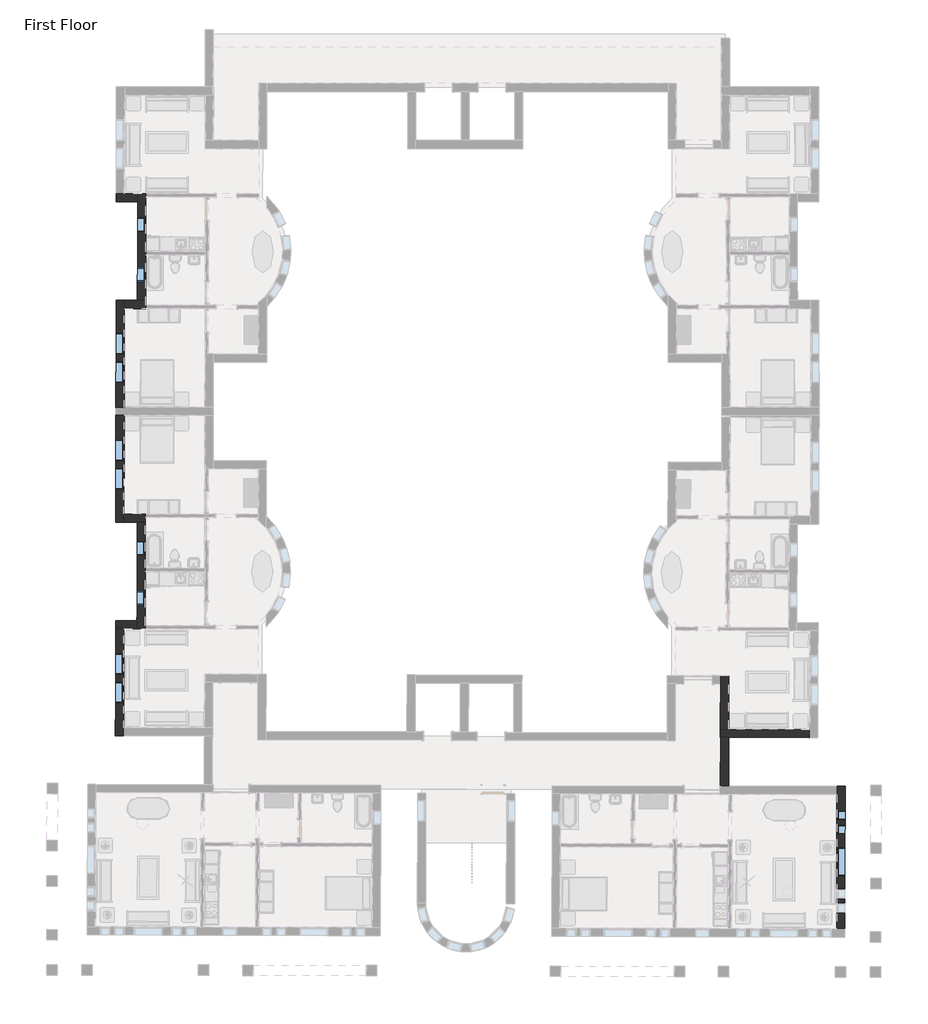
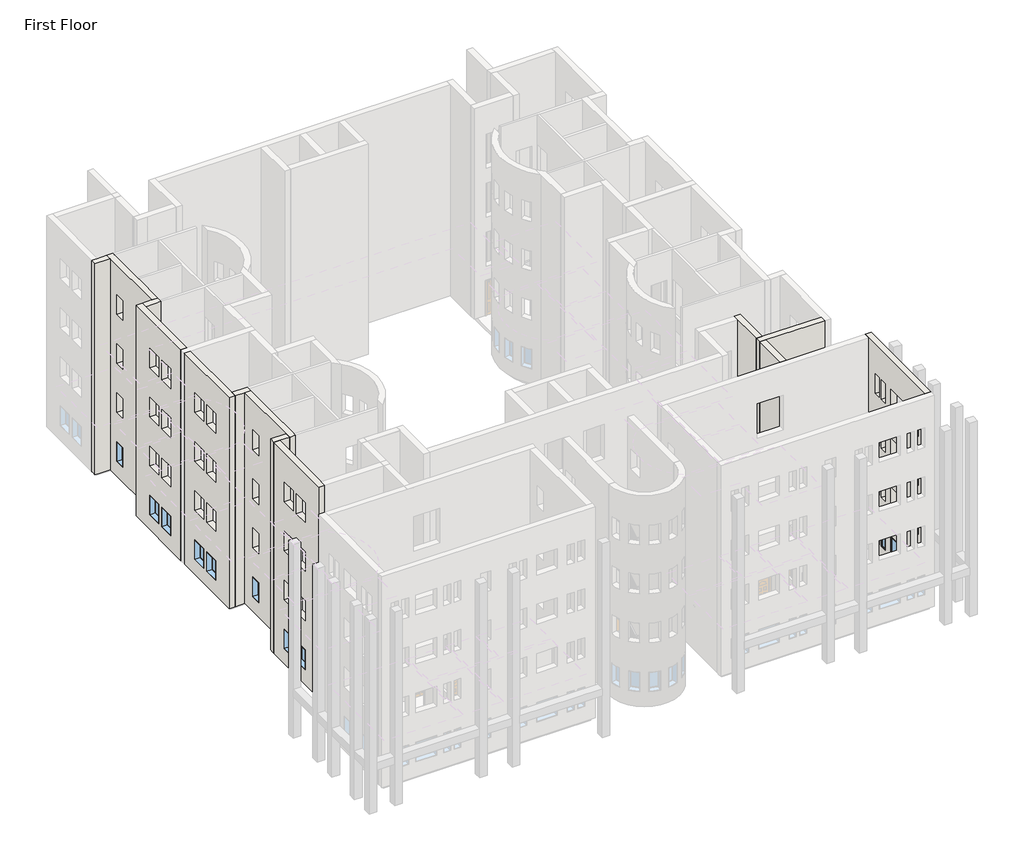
# One storey, part 5 of 23: 13 walls, 13 windows.
"""IFC4 building model written with IfcOpenShell, lengths in millimetres."""

from ifc_helpers import new_model, si_unit, origin, place, context, project, spatial, faceted_brep, transform, mapped, element, save
from components import m_fixed_0406_x_1220mm_57fee329, m_fixed_0610_x_1220mm_2c28ef1d, m_fixed_0610_x_1220mm_1ea27827, m_fixed_0915_x_1220mm_bde29121, m_fixed_0915_x_1220mm_2a2509e7, m_fixed_1220_x_1220mm_8f5f8ad3

model = new_model("IFC4")

# Units and contexts
model_context = context("Model", 3, world=origin())
ifc_project = project(units=[si_unit("LENGTHUNIT", "METRE", prefix="MILLI")], contexts=[model_context])

# Site, building, storey
site = spatial("IfcSite", under=ifc_project)
building = spatial("IfcBuilding", under=site)
storey = spatial("IfcBuildingStorey", under=building, Name="First Floor", Elevation=0.0)

# Walls
placement = place(None, origin())
element("IfcWall", 1, ObjectType="Exterior - Brick on Mtl. Stud", at=placement, inside=storey, context=model_context, shape_type="Brep", body=[
    faceted_brep([(-33657.6317367, -19488.7544857, 0.0), (-33651.5206937, -15266.7589083, 0.0), (-33651.0140937, -14916.759275, 0.0), (-33651.0140937, -14916.759275, 13107.0), (-33651.5206937, -15266.7589083, 13107.0), (-33657.6317367, -19488.7544857, 13107.0), (-33654.7963691, -17529.8565377, 915.0), (-33656.1207661, -18444.8555792, 915.0), (-33656.1207661, -18444.8555792, 2135.0), (-33654.7963691, -17529.8565377, 2135.0), (-33653.0316643, -16310.6578148, 915.0), (-33654.3560613, -17225.6568563, 915.0), (-33654.3560613, -17225.6568563, 2135.0), (-33653.0316643, -16310.6578148, 2135.0), (-33653.0316643, -16310.6578148, 10059.0), (-33654.3560613, -17225.6568563, 10059.0), (-33654.3560613, -17225.6568563, 11279.0), (-33653.0316643, -16310.6578148, 11279.0), (-33654.7963691, -17529.8565377, 10059.0), (-33656.1207661, -18444.8555792, 10059.0), (-33656.1207661, -18444.8555792, 11279.0), (-33654.7963691, -17529.8565377, 11279.0), (-33653.0316643, -16310.6578148, 3963.0), (-33654.3560613, -17225.6568563, 3963.0), (-33654.3560613, -17225.6568563, 5183.0), (-33653.0316643, -16310.6578148, 5183.0), (-33654.7963691, -17529.8565377, 3963.0), (-33656.1207661, -18444.8555792, 3963.0), (-33656.1207661, -18444.8555792, 5183.0), (-33654.7963691, -17529.8565377, 5183.0), (-33653.0316643, -16310.6578148, 7011.0), (-33654.3560613, -17225.6568563, 7011.0), (-33654.3560613, -17225.6568563, 8231.0), (-33653.0316643, -16310.6578148, 8231.0), (-33654.7963691, -17529.8565377, 7011.0), (-33656.1207661, -18444.8555792, 7011.0), (-33656.1207661, -18444.8555792, 8231.0), (-33654.7963691, -17529.8565377, 8231.0), (-34007.6313701, -19488.2478857, 0.0), (-34007.6313701, -19488.2478857, 13107.0), (-34001.0137271, -14916.252675, 13107.0), (-34001.0137271, -14916.252675, 0.0), (-34004.7960024, -17529.3499377, 915.0), (-34004.7960024, -17529.3499377, 2135.0), (-34006.1203995, -18444.3489792, 2135.0), (-34006.1203995, -18444.3489792, 915.0), (-34003.0312976, -16310.1512149, 915.0), (-34003.0312976, -16310.1512149, 2135.0), (-34004.3556947, -17225.1502564, 2135.0), (-34004.3556947, -17225.1502564, 915.0), (-34003.0312976, -16310.1512149, 10059.0), (-34003.0312976, -16310.1512149, 11279.0), (-34004.3556947, -17225.1502564, 11279.0), (-34004.3556947, -17225.1502564, 10059.0), (-34004.7960024, -17529.3499377, 10059.0), (-34004.7960024, -17529.3499377, 11279.0), (-34006.1203995, -18444.3489792, 11279.0), (-34006.1203995, -18444.3489792, 10059.0), (-34003.0312976, -16310.1512149, 3963.0), (-34003.0312976, -16310.1512149, 5183.0), (-34004.3556947, -17225.1502564, 5183.0), (-34004.3556947, -17225.1502564, 3963.0), (-34004.7960024, -17529.3499377, 3963.0), (-34004.7960024, -17529.3499377, 5183.0), (-34006.1203995, -18444.3489792, 5183.0), (-34006.1203995, -18444.3489792, 3963.0), (-34003.0312976, -16310.1512149, 7011.0), (-34003.0312976, -16310.1512149, 8231.0), (-34004.3556947, -17225.1502564, 8231.0), (-34004.3556947, -17225.1502564, 7011.0), (-34004.7960024, -17529.3499377, 7011.0), (-34004.7960024, -17529.3499377, 8231.0), (-34006.1203995, -18444.3489792, 8231.0), (-34006.1203995, -18444.3489792, 7011.0)], [[[0, 1, 2, 3, 4, 5], [6, 7, 8, 9], [10, 11, 12, 13], [14, 15, 16, 17], [18, 19, 20, 21], [22, 23, 24, 25], [26, 27, 28, 29], [30, 31, 32, 33], [34, 35, 36, 37]], [[38, 39, 40, 41], [42, 43, 44, 45], [46, 47, 48, 49], [50, 51, 52, 53], [54, 55, 56, 57], [58, 59, 60, 61], [62, 63, 64, 65], [66, 67, 68, 69], [70, 71, 72, 73]], [[2, 1, 0, 38, 41]], [[5, 4, 3, 40, 39]], [[0, 5, 39, 38]], [[3, 2, 41, 40]], [[43, 42, 6, 9]], [[44, 43, 9, 8]], [[45, 44, 8, 7]], [[42, 45, 7, 6]], [[47, 46, 10, 13]], [[48, 47, 13, 12]], [[49, 48, 12, 11]], [[46, 49, 11, 10]], [[51, 50, 14, 17]], [[52, 51, 17, 16]], [[53, 52, 16, 15]], [[50, 53, 15, 14]], [[55, 54, 18, 21]], [[56, 55, 21, 20]], [[57, 56, 20, 19]], [[54, 57, 19, 18]], [[59, 58, 22, 25]], [[60, 59, 25, 24]], [[61, 60, 24, 23]], [[58, 61, 23, 22]], [[63, 62, 26, 29]], [[64, 63, 29, 28]], [[65, 64, 28, 27]], [[62, 65, 27, 26]], [[67, 66, 30, 33]], [[68, 67, 33, 32]], [[69, 68, 32, 31]], [[66, 69, 31, 30]], [[71, 70, 34, 37]], [[72, 71, 37, 36]], [[73, 72, 36, 35]], [[70, 73, 35, 34]]]),
])
element("IfcWall", 2, ObjectType="Exterior - Brick on Mtl. Stud", at=placement, inside=storey, context=model_context, shape_type="Brep", body=[
    faceted_brep([(-33651.5206937, -15266.7589083, 0.0), (-32737.1216515, -15268.0824369, 0.0), (-32737.1216515, -15268.0824369, 13107.0), (-33651.5206937, -15266.7589083, 13107.0), (-33651.0140937, -14916.759275, 0.0), (-33651.0140937, -14916.759275, 13107.0), (-33086.6146849, -14917.5762036, 13107.0), (-32736.6150516, -14918.0828036, 13107.0), (-32736.6150516, -14918.0828036, 0.0), (-33086.6146849, -14917.5762036, 0.0), (-32736.9150311, -15125.3325865, 0.0), (-32737.1111577, -15260.8324445, 0.0), (-32737.1111577, -15260.8324445, 13107.0), (-32736.9150311, -15125.3325865, 13107.0)], [[[0, 1, 2, 3]], [[4, 5, 6, 7, 8, 9]], [[1, 0, 4, 9, 8, 10, 11]], [[3, 2, 12, 13, 7, 6, 5]], [[0, 3, 5, 4]], [[2, 1, 11, 10, 8, 7, 13, 12]]]),
])
element("IfcWall", 3, ObjectType="Exterior - Brick on Mtl. Stud", at=placement, inside=storey, context=model_context, shape_type="Brep", body=[
    faceted_brep([(-32736.6150516, -14918.0828036, 0.0), (-32733.7801182, -12959.4848553, 0.0), (-32733.5839916, -12823.9849972, 0.0), (-32730.204029, -10488.8374433, 0.0), (-32730.0079025, -10353.3375853, 0.0), (-32729.9974086, -10346.0875929, 0.0), (-32729.9974086, -10346.0875929, 13107.0), (-32730.0079025, -10353.3375853, 13107.0), (-32730.204029, -10488.8374433, 13107.0), (-32733.5839916, -12823.9849972, 13107.0), (-32733.7801182, -12959.4848553, 13107.0), (-32736.6150516, -14918.0828036, 13107.0), (-32734.5641178, -13501.1342879, 915.0), (-32735.4470492, -14111.1336489, 915.0), (-32735.4470492, -14111.1336489, 2135.0), (-32734.5641178, -13501.1342879, 2135.0), (-32731.4758844, -11367.5365229, 915.0), (-32732.3588158, -11977.5358839, 915.0), (-32732.3588158, -11977.5358839, 2135.0), (-32731.4758844, -11367.5365229, 2135.0), (-32731.4758844, -11367.5365229, 10059.0), (-32732.3588158, -11977.5358839, 10059.0), (-32732.3588158, -11977.5358839, 11279.0), (-32731.4758844, -11367.5365229, 11279.0), (-32734.5641178, -13501.1342879, 10059.0), (-32735.4470492, -14111.1336489, 10059.0), (-32735.4470492, -14111.1336489, 11279.0), (-32734.5641178, -13501.1342879, 11279.0), (-32731.4758844, -11367.5365229, 3963.0), (-32732.3588158, -11977.5358839, 3963.0), (-32732.3588158, -11977.5358839, 5183.0), (-32731.4758844, -11367.5365229, 5183.0), (-32734.5641178, -13501.1342879, 3963.0), (-32735.4470492, -14111.1336489, 3963.0), (-32735.4470492, -14111.1336489, 5183.0), (-32734.5641178, -13501.1342879, 5183.0), (-32731.4758844, -11367.5365229, 7011.0), (-32732.3588158, -11977.5358839, 7011.0), (-32732.3588158, -11977.5358839, 8231.0), (-32731.4758844, -11367.5365229, 8231.0), (-32734.5641178, -13501.1342879, 7011.0), (-32735.4470492, -14111.1336489, 7011.0), (-32735.4470492, -14111.1336489, 8231.0), (-32734.5641178, -13501.1342879, 8231.0), (-33086.6146849, -14917.5762036, 0.0), (-33086.6146849, -14917.5762036, 13107.0), (-33080.5036419, -10695.5806263, 13107.0), (-33079.997042, -10345.5809929, 13107.0), (-33079.997042, -10345.5809929, 0.0), (-33080.5036419, -10695.5806263, 0.0), (-33084.5637512, -13500.6276879, 915.0), (-33084.5637512, -13500.6276879, 2135.0), (-33085.4466825, -14110.6270489, 2135.0), (-33085.4466825, -14110.6270489, 915.0), (-33081.4755178, -11367.0299229, 915.0), (-33081.4755178, -11367.0299229, 2135.0), (-33082.3584491, -11977.0292839, 2135.0), (-33082.3584491, -11977.0292839, 915.0), (-33081.4755178, -11367.0299229, 10059.0), (-33081.4755178, -11367.0299229, 11279.0), (-33082.3584491, -11977.0292839, 11279.0), (-33082.3584491, -11977.0292839, 10059.0), (-33084.5637512, -13500.6276879, 10059.0), (-33084.5637512, -13500.6276879, 11279.0), (-33085.4466825, -14110.6270489, 11279.0), (-33085.4466825, -14110.6270489, 10059.0), (-33081.4755178, -11367.0299229, 3963.0), (-33081.4755178, -11367.0299229, 5183.0), (-33082.3584491, -11977.0292839, 5183.0), (-33082.3584491, -11977.0292839, 3963.0), (-33084.5637512, -13500.6276879, 3963.0), (-33084.5637512, -13500.6276879, 5183.0), (-33085.4466825, -14110.6270489, 5183.0), (-33085.4466825, -14110.6270489, 3963.0), (-33081.4755178, -11367.0299229, 7011.0), (-33081.4755178, -11367.0299229, 8231.0), (-33082.3584491, -11977.0292839, 8231.0), (-33082.3584491, -11977.0292839, 7011.0), (-33084.5637512, -13500.6276879, 7011.0), (-33084.5637512, -13500.6276879, 8231.0), (-33085.4466825, -14110.6270489, 8231.0), (-33085.4466825, -14110.6270489, 7011.0)], [[[0, 1, 2, 3, 4, 5, 6, 7, 8, 9, 10, 11], [12, 13, 14, 15], [16, 17, 18, 19], [20, 21, 22, 23], [24, 25, 26, 27], [28, 29, 30, 31], [32, 33, 34, 35], [36, 37, 38, 39], [40, 41, 42, 43]], [[44, 45, 46, 47, 48, 49], [50, 51, 52, 53], [54, 55, 56, 57], [58, 59, 60, 61], [62, 63, 64, 65], [66, 67, 68, 69], [70, 71, 72, 73], [74, 75, 76, 77], [78, 79, 80, 81]], [[5, 4, 3, 2, 1, 0, 44, 49, 48]], [[11, 10, 9, 8, 7, 6, 47, 46, 45]], [[0, 11, 45, 44]], [[6, 5, 48, 47]], [[51, 50, 12, 15]], [[52, 51, 15, 14]], [[53, 52, 14, 13]], [[50, 53, 13, 12]], [[55, 54, 16, 19]], [[56, 55, 19, 18]], [[57, 56, 18, 17]], [[54, 57, 17, 16]], [[59, 58, 20, 23]], [[60, 59, 23, 22]], [[61, 60, 22, 21]], [[58, 61, 21, 20]], [[63, 62, 24, 27]], [[64, 63, 27, 26]], [[65, 64, 26, 25]], [[62, 65, 25, 24]], [[67, 66, 28, 31]], [[68, 67, 31, 30]], [[69, 68, 30, 29]], [[66, 69, 29, 28]], [[71, 70, 32, 35]], [[72, 71, 35, 34]], [[73, 72, 34, 33]], [[70, 73, 33, 32]], [[75, 74, 36, 39]], [[76, 75, 39, 38]], [[77, 76, 38, 37]], [[74, 77, 37, 36]], [[79, 78, 40, 43]], [[80, 79, 43, 42]], [[81, 80, 42, 41]], [[78, 81, 41, 40]]]),
])
element("IfcWall", 4, ObjectType="Exterior - Brick on Mtl. Stud", at=placement, inside=storey, context=model_context, shape_type="Brep", body=[
    faceted_brep([(-33079.997042, -10345.5809929, 0.0), (-33644.3964507, -10344.7640643, 0.0), (-33809.3962779, -10344.5252386, 0.0), (-33994.3960841, -10344.2574643, 0.0), (-33994.3960841, -10344.2574643, 13107.0), (-33644.3964507, -10344.7640643, 13107.0), (-33079.997042, -10345.5809929, 13107.0), (-33080.5036419, -10695.5806263, 0.0), (-33080.5036419, -10695.5806263, 13107.0), (-33994.9026841, -10694.2570977, 13107.0), (-33994.9026841, -10694.2570977, 0.0), (-33809.9028779, -10694.5248719, 0.0), (-33080.2358677, -10510.58082, 0.0), (-33994.6349098, -10509.2572915, 0.0), (-33809.6351036, -10509.5250657, 0.0)], [[[0, 1, 2, 3, 4, 5, 6]], [[7, 8, 9, 10, 11]], [[6, 5, 4, 9, 8]], [[0, 6, 8, 7, 12]], [[4, 3, 13, 10, 9]], [[12, 7, 11, 14]], [[3, 2, 14, 13]], [[14, 11, 10, 13]], [[2, 1, 0, 12, 14]]]),
])
element("IfcWall", 5, ObjectType="Exterior - Brick on Mtl. Stud", at=placement, inside=storey, context=model_context, shape_type="Brep", body=[
    faceted_brep([(-2807.360214, -41823.0280554, 0.0), (-2790.2487325, -35912.0528231, 0.0), (-2789.7131845, -35727.0535983, 0.0), (-2789.7131845, -35727.0535983, 13107.0), (-2807.360214, -41823.0280554, 13107.0), (-2797.2774378, -38340.0426495, 915.0), (-2800.8091595, -39560.0375376, 915.0), (-2800.8091595, -39560.0375376, 2135.0), (-2797.2774378, -38340.0426495, 2135.0), (-2802.424488, -40118.0351996, 915.0), (-2803.5997987, -40524.0334984, 915.0), (-2803.5997987, -40524.0334984, 2135.0), (-2802.424488, -40118.0351996, 2135.0), (-2804.1903489, -40728.0326436, 915.0), (-2805.3656596, -41134.0309424, 915.0), (-2805.3656596, -41134.0309424, 2135.0), (-2804.1903489, -40728.0326436, 2135.0), (-2795.6621093, -37782.0449876, 915.0), (-2795.6621093, -37782.0449876, 2135.0), (-2794.4867986, -37376.0466888, 2135.0), (-2794.4867986, -37376.0466888, 915.0), (-2793.8962484, -37172.0475436, 915.0), (-2793.8962484, -37172.0475436, 2135.0), (-2792.7209377, -36766.0492448, 2135.0), (-2792.7209377, -36766.0492448, 915.0), (-2795.6621093, -37782.0449876, 10059.0), (-2795.6621093, -37782.0449876, 11279.0), (-2794.4867986, -37376.0466888, 11279.0), (-2794.4867986, -37376.0466888, 10059.0), (-2793.8962484, -37172.0475436, 10059.0), (-2793.8962484, -37172.0475436, 11279.0), (-2792.7209377, -36766.0492448, 11279.0), (-2792.7209377, -36766.0492448, 10059.0), (-2802.424488, -40118.0351996, 10059.0), (-2803.5997987, -40524.0334984, 10059.0), (-2803.5997987, -40524.0334984, 11279.0), (-2802.424488, -40118.0351996, 11279.0), (-2804.1903489, -40728.0326436, 10059.0), (-2805.3656596, -41134.0309424, 10059.0), (-2805.3656596, -41134.0309424, 11279.0), (-2804.1903489, -40728.0326436, 11279.0), (-2797.2774378, -38340.0426495, 10059.0), (-2800.8091595, -39560.0375376, 10059.0), (-2800.8091595, -39560.0375376, 11279.0), (-2797.2774378, -38340.0426495, 11279.0), (-2795.6621093, -37782.0449876, 3963.0), (-2795.6621093, -37782.0449876, 5183.0), (-2794.4867986, -37376.0466888, 5183.0), (-2794.4867986, -37376.0466888, 3963.0), (-2793.8962484, -37172.0475436, 3963.0), (-2793.8962484, -37172.0475436, 5183.0), (-2792.7209377, -36766.0492448, 5183.0), (-2792.7209377, -36766.0492448, 3963.0), (-2802.424488, -40118.0351996, 3963.0), (-2803.5997987, -40524.0334984, 3963.0), (-2803.5997987, -40524.0334984, 5183.0), (-2802.424488, -40118.0351996, 5183.0), (-2804.1903489, -40728.0326436, 3963.0), (-2805.3656596, -41134.0309424, 3963.0), (-2805.3656596, -41134.0309424, 5183.0), (-2804.1903489, -40728.0326436, 5183.0), (-2797.2774378, -38340.0426495, 3963.0), (-2800.8091595, -39560.0375376, 3963.0), (-2800.8091595, -39560.0375376, 5183.0), (-2797.2774378, -38340.0426495, 5183.0), (-2795.6621093, -37782.0449876, 7011.0), (-2795.6621093, -37782.0449876, 8231.0), (-2794.4867986, -37376.0466888, 8231.0), (-2794.4867986, -37376.0466888, 7011.0), (-2793.8962484, -37172.0475436, 7011.0), (-2793.8962484, -37172.0475436, 8231.0), (-2792.7209377, -36766.0492448, 8231.0), (-2792.7209377, -36766.0492448, 7011.0), (-2802.424488, -40118.0351996, 7011.0), (-2803.5997987, -40524.0334984, 7011.0), (-2803.5997987, -40524.0334984, 8231.0), (-2802.424488, -40118.0351996, 8231.0), (-2804.1903489, -40728.0326436, 7011.0), (-2805.3656596, -41134.0309424, 7011.0), (-2805.3656596, -41134.0309424, 8231.0), (-2804.1903489, -40728.0326436, 8231.0), (-2797.2774378, -38340.0426495, 7011.0), (-2800.8091595, -39560.0375376, 7011.0), (-2800.8091595, -39560.0375376, 8231.0), (-2797.2774378, -38340.0426495, 8231.0), (-3157.3587474, -41822.0148566, 0.0), (-3157.3587474, -41822.0148566, 13107.0), (-3140.7249168, -36076.0389329, 13107.0), (-3139.711718, -35726.0403994, 13107.0), (-3139.711718, -35726.0403994, 0.0), (-3140.2472659, -35911.0396242, 0.0), (-3140.7249168, -36076.0389329, 0.0), (-3147.2759712, -38339.0294507, 915.0), (-3147.2759712, -38339.0294507, 2135.0), (-3150.807693, -39559.0243388, 2135.0), (-3150.807693, -39559.0243388, 915.0), (-3152.4230215, -40117.0220007, 915.0), (-3152.4230215, -40117.0220007, 2135.0), (-3153.5983322, -40523.0202995, 2135.0), (-3153.5983322, -40523.0202995, 915.0), (-3154.1888824, -40727.0194447, 915.0), (-3154.1888824, -40727.0194447, 2135.0), (-3155.3641931, -41133.0177435, 2135.0), (-3155.3641931, -41133.0177435, 915.0), (-3145.6606427, -37781.0317888, 915.0), (-3144.4853321, -37375.0334899, 915.0), (-3144.4853321, -37375.0334899, 2135.0), (-3145.6606427, -37781.0317888, 2135.0), (-3143.8947819, -37171.0343447, 915.0), (-3142.7194712, -36765.0360459, 915.0), (-3142.7194712, -36765.0360459, 2135.0), (-3143.8947819, -37171.0343447, 2135.0), (-3145.6606427, -37781.0317888, 10059.0), (-3144.4853321, -37375.0334899, 10059.0), (-3144.4853321, -37375.0334899, 11279.0), (-3145.6606427, -37781.0317888, 11279.0), (-3143.8947819, -37171.0343447, 10059.0), (-3142.7194712, -36765.0360459, 10059.0), (-3142.7194712, -36765.0360459, 11279.0), (-3143.8947819, -37171.0343447, 11279.0), (-3152.4230215, -40117.0220007, 10059.0), (-3152.4230215, -40117.0220007, 11279.0), (-3153.5983322, -40523.0202995, 11279.0), (-3153.5983322, -40523.0202995, 10059.0), (-3154.1888824, -40727.0194447, 10059.0), (-3154.1888824, -40727.0194447, 11279.0), (-3155.3641931, -41133.0177435, 11279.0), (-3155.3641931, -41133.0177435, 10059.0), (-3147.2759712, -38339.0294507, 10059.0), (-3147.2759712, -38339.0294507, 11279.0), (-3150.807693, -39559.0243388, 11279.0), (-3150.807693, -39559.0243388, 10059.0), (-3145.6606427, -37781.0317888, 3963.0), (-3144.4853321, -37375.0334899, 3963.0), (-3144.4853321, -37375.0334899, 5183.0), (-3145.6606427, -37781.0317888, 5183.0), (-3143.8947819, -37171.0343447, 3963.0), (-3142.7194712, -36765.0360459, 3963.0), (-3142.7194712, -36765.0360459, 5183.0), (-3143.8947819, -37171.0343447, 5183.0), (-3152.4230215, -40117.0220007, 3963.0), (-3152.4230215, -40117.0220007, 5183.0), (-3153.5983322, -40523.0202995, 5183.0), (-3153.5983322, -40523.0202995, 3963.0), (-3154.1888824, -40727.0194447, 3963.0), (-3154.1888824, -40727.0194447, 5183.0), (-3155.3641931, -41133.0177435, 5183.0), (-3155.3641931, -41133.0177435, 3963.0), (-3147.2759712, -38339.0294507, 3963.0), (-3147.2759712, -38339.0294507, 5183.0), (-3150.807693, -39559.0243388, 5183.0), (-3150.807693, -39559.0243388, 3963.0), (-3145.6606427, -37781.0317888, 7011.0), (-3144.4853321, -37375.0334899, 7011.0), (-3144.4853321, -37375.0334899, 8231.0), (-3145.6606427, -37781.0317888, 8231.0), (-3143.8947819, -37171.0343447, 7011.0), (-3142.7194712, -36765.0360459, 7011.0), (-3142.7194712, -36765.0360459, 8231.0), (-3143.8947819, -37171.0343447, 8231.0), (-3152.4230215, -40117.0220007, 7011.0), (-3152.4230215, -40117.0220007, 8231.0), (-3153.5983322, -40523.0202995, 8231.0), (-3153.5983322, -40523.0202995, 7011.0), (-3154.1888824, -40727.0194447, 7011.0), (-3154.1888824, -40727.0194447, 8231.0), (-3155.3641931, -41133.0177435, 8231.0), (-3155.3641931, -41133.0177435, 7011.0), (-3147.2759712, -38339.0294507, 7011.0), (-3147.2759712, -38339.0294507, 8231.0), (-3150.807693, -39559.0243388, 8231.0), (-3150.807693, -39559.0243388, 7011.0), (-2974.7124093, -35726.5180503, 0.0), (-2992.3594388, -41822.4925075, 0.0), (-2975.2479573, -35911.5172751, 0.0)], [[[0, 1, 2, 3, 4], [5, 6, 7, 8], [9, 10, 11, 12], [13, 14, 15, 16], [17, 18, 19, 20], [21, 22, 23, 24], [25, 26, 27, 28], [29, 30, 31, 32], [33, 34, 35, 36], [37, 38, 39, 40], [41, 42, 43, 44], [45, 46, 47, 48], [49, 50, 51, 52], [53, 54, 55, 56], [57, 58, 59, 60], [61, 62, 63, 64], [65, 66, 67, 68], [69, 70, 71, 72], [73, 74, 75, 76], [77, 78, 79, 80], [81, 82, 83, 84]], [[85, 86, 87, 88, 89, 90, 91], [92, 93, 94, 95], [96, 97, 98, 99], [100, 101, 102, 103], [104, 105, 106, 107], [108, 109, 110, 111], [112, 113, 114, 115], [116, 117, 118, 119], [120, 121, 122, 123], [124, 125, 126, 127], [128, 129, 130, 131], [132, 133, 134, 135], [136, 137, 138, 139], [140, 141, 142, 143], [144, 145, 146, 147], [148, 149, 150, 151], [152, 153, 154, 155], [156, 157, 158, 159], [160, 161, 162, 163], [164, 165, 166, 167], [168, 169, 170, 171]], [[4, 3, 88, 87, 86]], [[93, 92, 5, 8]], [[94, 93, 8, 7]], [[95, 94, 7, 6]], [[92, 95, 6, 5]], [[97, 96, 9, 12]], [[98, 97, 12, 11]], [[99, 98, 11, 10]], [[96, 99, 10, 9]], [[101, 100, 13, 16]], [[102, 101, 16, 15]], [[103, 102, 15, 14]], [[100, 103, 14, 13]], [[18, 17, 104, 107]], [[19, 18, 107, 106]], [[20, 19, 106, 105]], [[17, 20, 105, 104]], [[22, 21, 108, 111]], [[23, 22, 111, 110]], [[24, 23, 110, 109]], [[21, 24, 109, 108]], [[26, 25, 112, 115]], [[27, 26, 115, 114]], [[28, 27, 114, 113]], [[25, 28, 113, 112]], [[30, 29, 116, 119]], [[31, 30, 119, 118]], [[32, 31, 118, 117]], [[29, 32, 117, 116]], [[121, 120, 33, 36]], [[122, 121, 36, 35]], [[123, 122, 35, 34]], [[120, 123, 34, 33]], [[125, 124, 37, 40]], [[126, 125, 40, 39]], [[127, 126, 39, 38]], [[124, 127, 38, 37]], [[129, 128, 41, 44]], [[130, 129, 44, 43]], [[131, 130, 43, 42]], [[128, 131, 42, 41]], [[46, 45, 132, 135]], [[47, 46, 135, 134]], [[48, 47, 134, 133]], [[45, 48, 133, 132]], [[50, 49, 136, 139]], [[51, 50, 139, 138]], [[52, 51, 138, 137]], [[49, 52, 137, 136]], [[141, 140, 53, 56]], [[142, 141, 56, 55]], [[143, 142, 55, 54]], [[140, 143, 54, 53]], [[145, 144, 57, 60]], [[146, 145, 60, 59]], [[147, 146, 59, 58]], [[144, 147, 58, 57]], [[149, 148, 61, 64]], [[150, 149, 64, 63]], [[151, 150, 63, 62]], [[148, 151, 62, 61]], [[66, 65, 152, 155]], [[67, 66, 155, 154]], [[68, 67, 154, 153]], [[65, 68, 153, 152]], [[70, 69, 156, 159]], [[71, 70, 159, 158]], [[72, 71, 158, 157]], [[69, 72, 157, 156]], [[161, 160, 73, 76]], [[162, 161, 76, 75]], [[163, 162, 75, 74]], [[160, 163, 74, 73]], [[165, 164, 77, 80]], [[166, 165, 80, 79]], [[167, 166, 79, 78]], [[164, 167, 78, 77]], [[169, 168, 81, 84]], [[170, 169, 84, 83]], [[171, 170, 83, 82]], [[168, 171, 82, 81]], [[3, 2, 172, 89, 88]], [[0, 4, 86, 85, 173]], [[90, 89, 172, 174]], [[1, 0, 173, 174]], [[2, 1, 174, 172]], [[173, 85, 91, 90, 174]]]),
])
element("IfcWall", 6, ObjectType="Exterior - Brick on Mtl. Stud", at=placement, inside=storey, context=model_context, shape_type="Brep", body=[
    faceted_brep([(-7779.4422769, -35712.609001, 0.0), (-7773.3981375, -33624.7267446, 0.0), (-7773.3981375, -33624.7267446, 13107.0), (-7779.4422769, -35712.609001, 13107.0), (-8129.4408104, -35711.5958021, 0.0), (-8129.4408104, -35711.5958021, 13107.0), (-8123.3952044, -33623.2069473, 13107.0), (-8123.3952044, -33623.2069473, 0.0), (-7964.4415018, -35712.073453, 0.0), (-7958.3965872, -33623.9234232, 0.0)], [[[0, 1, 2, 3]], [[4, 5, 6, 7]], [[3, 2, 6, 5]], [[0, 3, 5, 4, 8]], [[1, 0, 8, 9]], [[2, 1, 9, 7, 6]], [[8, 4, 7, 9]]]),
])
element("IfcWall", 7, ObjectType="Exterior - Brick on Mtl. Stud", at=placement, inside=storey, context=model_context, shape_type="Brep", body=[
    faceted_brep([(-4315.2201221, -33289.7399404, 0.0), (-7775.1875022, -33274.7156749, 0.0), (-7940.1859467, -33273.9991998, 0.0), (-8125.1842025, -33273.1958792, 0.0), (-8125.1842025, -33273.1958792, 13107.0), (-7775.1875022, -33274.7156749, 13107.0), (-4315.2201221, -33289.7399404, 13107.0), (-4316.7399178, -33639.7366407, 0.0), (-4316.7399178, -33639.7366407, 13107.0), (-7773.3981375, -33624.7267446, 13107.0), (-8123.3952044, -33623.2069473, 13107.0), (-8126.7039982, -33623.1925795, 13107.0), (-8126.7039982, -33623.1925795, 0.0), (-8123.3952044, -33623.2069473, 0.0), (-7941.7057423, -33623.9959001, 0.0), (-7773.3981375, -33624.7267446, 0.0), (-4315.9365972, -33454.7383849, 0.0), (-8125.9006776, -33438.1943236, 0.0), (-7940.9024218, -33438.9976442, 0.0)], [[[0, 1, 2, 3, 4, 5, 6]], [[7, 8, 9, 10, 11, 12, 13, 14, 15]], [[6, 5, 4, 11, 10, 9, 8]], [[0, 6, 8, 7, 16]], [[4, 3, 17, 12, 11]], [[16, 7, 15, 14, 18]], [[3, 2, 18, 17]], [[18, 14, 13, 12, 17]], [[2, 1, 0, 16, 18]]]),
])
element("IfcWall", 8, ObjectType="Exterior - Brick on Mtl. Stud", at=placement, inside=storey, context=model_context, shape_type="Brep", body=[
    faceted_brep([(-7775.1875022, -33274.7156749, 0.0), (-7765.9775406, -31153.735671, 0.0), (-7765.2610655, -30988.7372266, 0.0), (-7765.2610655, -30988.7372266, 13107.0), (-7775.1875022, -33274.7156749, 13107.0), (-8125.1842025, -33273.1958792, 0.0), (-8125.1842025, -33273.1958792, 13107.0), (-8116.7775614, -31337.2141313, 13107.0), (-8115.2577658, -30987.217431, 13107.0), (-8115.2577658, -30987.217431, 0.0), (-8115.9742409, -31152.2158754, 0.0), (-8116.7775614, -31337.2141313, 0.0), (-7940.1859467, -33273.9991998, 0.0), (-7930.975985, -31153.0191959, 0.0)], [[[0, 1, 2, 3, 4]], [[5, 6, 7, 8, 9, 10, 11]], [[4, 3, 8, 7, 6]], [[0, 4, 6, 5, 12]], [[12, 5, 11, 10, 13]], [[10, 9, 2, 1, 0, 12, 13]], [[3, 2, 9, 8]]]),
])
element("IfcWall", 9, ObjectType="Exterior - Brick on Mtl. Stud", at=placement, inside=storey, context=model_context, shape_type="Brep", body=[
    faceted_brep([(-34008.13797, -19838.2475191, 0.0), (-34014.755613, -24410.2427298, 0.0), (-34014.755613, -24410.2427298, 13107.0), (-34008.13797, -19838.2475191, 13107.0), (-34010.9733377, -21797.1454671, 915.0), (-34009.6489406, -20882.1464256, 915.0), (-34009.6489406, -20882.1464256, 2135.0), (-34010.9733377, -21797.1454671, 2135.0), (-34012.7380425, -23016.34419, 915.0), (-34011.4136454, -22101.3451484, 915.0), (-34011.4136454, -22101.3451484, 2135.0), (-34012.7380425, -23016.34419, 2135.0), (-34012.7380425, -23016.34419, 10059.0), (-34011.4136454, -22101.3451484, 10059.0), (-34011.4136454, -22101.3451484, 11279.0), (-34012.7380425, -23016.34419, 11279.0), (-34010.9733377, -21797.1454671, 10059.0), (-34009.6489406, -20882.1464256, 10059.0), (-34009.6489406, -20882.1464256, 11279.0), (-34010.9733377, -21797.1454671, 11279.0), (-34012.7380425, -23016.34419, 3963.0), (-34011.4136454, -22101.3451484, 3963.0), (-34011.4136454, -22101.3451484, 5183.0), (-34012.7380425, -23016.34419, 5183.0), (-34010.9733377, -21797.1454671, 3963.0), (-34009.6489406, -20882.1464256, 3963.0), (-34009.6489406, -20882.1464256, 5183.0), (-34010.9733377, -21797.1454671, 5183.0), (-34012.7380425, -23016.34419, 7011.0), (-34011.4136454, -22101.3451484, 7011.0), (-34011.4136454, -22101.3451484, 8231.0), (-34012.7380425, -23016.34419, 8231.0), (-34010.9733377, -21797.1454671, 7011.0), (-34009.6489406, -20882.1464256, 7011.0), (-34009.6489406, -20882.1464256, 8231.0), (-34010.9733377, -21797.1454671, 8231.0), (-33658.1383367, -19838.7541191, 0.0), (-33658.1383367, -19838.7541191, 13107.0), (-33664.2493797, -24060.7496964, 13107.0), (-33664.7559796, -24410.7493298, 13107.0), (-33664.7559796, -24410.7493298, 0.0), (-33664.2493797, -24060.7496964, 0.0), (-33660.9737043, -21797.6520671, 915.0), (-33660.9737043, -21797.6520671, 2135.0), (-33659.6493073, -20882.6530255, 2135.0), (-33659.6493073, -20882.6530255, 915.0), (-33662.7384091, -23016.8507899, 915.0), (-33662.7384091, -23016.8507899, 2135.0), (-33661.414012, -22101.8517484, 2135.0), (-33661.414012, -22101.8517484, 915.0), (-33662.7384091, -23016.8507899, 10059.0), (-33662.7384091, -23016.8507899, 11279.0), (-33661.414012, -22101.8517484, 11279.0), (-33661.414012, -22101.8517484, 10059.0), (-33660.9737043, -21797.6520671, 10059.0), (-33660.9737043, -21797.6520671, 11279.0), (-33659.6493073, -20882.6530255, 11279.0), (-33659.6493073, -20882.6530255, 10059.0), (-33662.7384091, -23016.8507899, 3963.0), (-33662.7384091, -23016.8507899, 5183.0), (-33661.414012, -22101.8517484, 5183.0), (-33661.414012, -22101.8517484, 3963.0), (-33660.9737043, -21797.6520671, 3963.0), (-33660.9737043, -21797.6520671, 5183.0), (-33659.6493073, -20882.6530255, 5183.0), (-33659.6493073, -20882.6530255, 3963.0), (-33662.7384091, -23016.8507899, 7011.0), (-33662.7384091, -23016.8507899, 8231.0), (-33661.414012, -22101.8517484, 8231.0), (-33661.414012, -22101.8517484, 7011.0), (-33660.9737043, -21797.6520671, 7011.0), (-33660.9737043, -21797.6520671, 8231.0), (-33659.6493073, -20882.6530255, 8231.0), (-33659.6493073, -20882.6530255, 7011.0)], [[[0, 1, 2, 3], [4, 5, 6, 7], [8, 9, 10, 11], [12, 13, 14, 15], [16, 17, 18, 19], [20, 21, 22, 23], [24, 25, 26, 27], [28, 29, 30, 31], [32, 33, 34, 35]], [[36, 37, 38, 39, 40, 41], [42, 43, 44, 45], [46, 47, 48, 49], [50, 51, 52, 53], [54, 55, 56, 57], [58, 59, 60, 61], [62, 63, 64, 65], [66, 67, 68, 69], [70, 71, 72, 73]], [[1, 0, 36, 41, 40]], [[3, 2, 39, 38, 37]], [[2, 1, 40, 39]], [[43, 42, 4, 7]], [[44, 43, 7, 6]], [[45, 44, 6, 5]], [[42, 45, 5, 4]], [[47, 46, 8, 11]], [[48, 47, 11, 10]], [[49, 48, 10, 9]], [[46, 49, 9, 8]], [[51, 50, 12, 15]], [[52, 51, 15, 14]], [[53, 52, 14, 13]], [[50, 53, 13, 12]], [[55, 54, 16, 19]], [[56, 55, 19, 18]], [[57, 56, 18, 17]], [[54, 57, 17, 16]], [[59, 58, 20, 23]], [[60, 59, 23, 22]], [[61, 60, 22, 21]], [[58, 61, 21, 20]], [[63, 62, 24, 27]], [[64, 63, 27, 26]], [[65, 64, 26, 25]], [[62, 65, 25, 24]], [[67, 66, 28, 31]], [[68, 67, 31, 30]], [[69, 68, 30, 29]], [[66, 69, 29, 28]], [[71, 70, 32, 35]], [[72, 71, 35, 34]], [[73, 72, 34, 33]], [[70, 73, 33, 32]], [[0, 3, 37, 36]]]),
])
element("IfcWall", 10, ObjectType="Exterior - Brick on Mtl. Stud", at=placement, inside=storey, context=model_context, shape_type="Brep", body=[
    faceted_brep([(-33664.7559796, -24410.7493298, 0.0), (-33100.3565709, -24411.5662584, 0.0), (-32750.3569375, -24412.0728584, 0.0), (-32750.3569375, -24412.0728584, 13107.0), (-33100.3565709, -24411.5662584, 13107.0), (-33664.7559796, -24410.7493298, 13107.0), (-33664.2493797, -24060.7496964, 0.0), (-33664.2493797, -24060.7496964, 13107.0), (-32749.8503375, -24062.073225, 13107.0), (-32749.8503375, -24062.073225, 0.0), (-32749.8608314, -24069.3232174, 0.0), (-32750.056958, -24204.8230755, 0.0), (-32750.056958, -24204.8230755, 13107.0), (-32749.8608314, -24069.3232174, 13107.0)], [[[0, 1, 2, 3, 4, 5]], [[6, 7, 8, 9]], [[2, 1, 0, 6, 9, 10, 11]], [[5, 4, 3, 12, 13, 8, 7]], [[0, 5, 7, 6]], [[3, 2, 11, 10, 9, 8, 13, 12]]]),
])
element("IfcWall", 11, ObjectType="Exterior - Brick on Mtl. Stud", at=placement, inside=storey, context=model_context, shape_type="Brep", body=[
    faceted_brep([(-33100.3565709, -24411.5662584, 0.0), (-33106.4676139, -28633.5618357, 0.0), (-33106.9742139, -28983.5614691, 0.0), (-33106.9742139, -28983.5614691, 13107.0), (-33106.4676139, -28633.5618357, 13107.0), (-33100.3565709, -24411.5662584, 13107.0), (-33102.4075046, -25828.5147741, 915.0), (-33101.5245733, -25218.5154131, 915.0), (-33101.5245733, -25218.5154131, 2135.0), (-33102.4075046, -25828.5147741, 2135.0), (-33105.495738, -27962.1125391, 915.0), (-33104.6128067, -27352.1131781, 915.0), (-33104.6128067, -27352.1131781, 2135.0), (-33105.495738, -27962.1125391, 2135.0), (-33105.495738, -27962.1125391, 10059.0), (-33104.6128067, -27352.1131781, 10059.0), (-33104.6128067, -27352.1131781, 11279.0), (-33105.495738, -27962.1125391, 11279.0), (-33102.4075046, -25828.5147741, 10059.0), (-33101.5245733, -25218.5154131, 10059.0), (-33101.5245733, -25218.5154131, 11279.0), (-33102.4075046, -25828.5147741, 11279.0), (-33105.495738, -27962.1125391, 3963.0), (-33104.6128067, -27352.1131781, 3963.0), (-33104.6128067, -27352.1131781, 5183.0), (-33105.495738, -27962.1125391, 5183.0), (-33102.4075046, -25828.5147741, 3963.0), (-33101.5245733, -25218.5154131, 3963.0), (-33101.5245733, -25218.5154131, 5183.0), (-33102.4075046, -25828.5147741, 5183.0), (-33105.495738, -27962.1125391, 7011.0), (-33104.6128067, -27352.1131781, 7011.0), (-33104.6128067, -27352.1131781, 8231.0), (-33105.495738, -27962.1125391, 8231.0), (-33102.4075046, -25828.5147741, 7011.0), (-33101.5245733, -25218.5154131, 7011.0), (-33101.5245733, -25218.5154131, 8231.0), (-33102.4075046, -25828.5147741, 8231.0), (-32750.3569375, -24412.0728584, 0.0), (-32750.3569375, -24412.0728584, 13107.0), (-32753.1918709, -26370.6708067, 13107.0), (-32753.3879975, -26506.1706647, 13107.0), (-32756.7679601, -28841.3182186, 13107.0), (-32756.9640866, -28976.8180767, 13107.0), (-32756.9745805, -28984.0680691, 13107.0), (-32756.9745805, -28984.0680691, 0.0), (-32756.9640866, -28976.8180767, 0.0), (-32756.7679601, -28841.3182186, 0.0), (-32753.3879975, -26506.1706647, 0.0), (-32753.1918709, -26370.6708067, 0.0), (-32752.4078713, -25829.0213741, 915.0), (-32752.4078713, -25829.0213741, 2135.0), (-32751.5249399, -25219.0220131, 2135.0), (-32751.5249399, -25219.0220131, 915.0), (-32755.4961047, -27962.6191391, 915.0), (-32755.4961047, -27962.6191391, 2135.0), (-32754.6131733, -27352.6197781, 2135.0), (-32754.6131733, -27352.6197781, 915.0), (-32755.4961047, -27962.6191391, 10059.0), (-32755.4961047, -27962.6191391, 11279.0), (-32754.6131733, -27352.6197781, 11279.0), (-32754.6131733, -27352.6197781, 10059.0), (-32752.4078713, -25829.0213741, 10059.0), (-32752.4078713, -25829.0213741, 11279.0), (-32751.5249399, -25219.0220131, 11279.0), (-32751.5249399, -25219.0220131, 10059.0), (-32755.4961047, -27962.6191391, 3963.0), (-32755.4961047, -27962.6191391, 5183.0), (-32754.6131733, -27352.6197781, 5183.0), (-32754.6131733, -27352.6197781, 3963.0), (-32752.4078713, -25829.0213741, 3963.0), (-32752.4078713, -25829.0213741, 5183.0), (-32751.5249399, -25219.0220131, 5183.0), (-32751.5249399, -25219.0220131, 3963.0), (-32755.4961047, -27962.6191391, 7011.0), (-32755.4961047, -27962.6191391, 8231.0), (-32754.6131733, -27352.6197781, 8231.0), (-32754.6131733, -27352.6197781, 7011.0), (-32752.4078713, -25829.0213741, 7011.0), (-32752.4078713, -25829.0213741, 8231.0), (-32751.5249399, -25219.0220131, 8231.0), (-32751.5249399, -25219.0220131, 7011.0)], [[[0, 1, 2, 3, 4, 5], [6, 7, 8, 9], [10, 11, 12, 13], [14, 15, 16, 17], [18, 19, 20, 21], [22, 23, 24, 25], [26, 27, 28, 29], [30, 31, 32, 33], [34, 35, 36, 37]], [[38, 39, 40, 41, 42, 43, 44, 45, 46, 47, 48, 49], [50, 51, 52, 53], [54, 55, 56, 57], [58, 59, 60, 61], [62, 63, 64, 65], [66, 67, 68, 69], [70, 71, 72, 73], [74, 75, 76, 77], [78, 79, 80, 81]], [[2, 1, 0, 38, 49, 48, 47, 46, 45]], [[5, 4, 3, 44, 43, 42, 41, 40, 39]], [[0, 5, 39, 38]], [[3, 2, 45, 44]], [[51, 50, 6, 9]], [[52, 51, 9, 8]], [[53, 52, 8, 7]], [[50, 53, 7, 6]], [[55, 54, 10, 13]], [[56, 55, 13, 12]], [[57, 56, 12, 11]], [[54, 57, 11, 10]], [[59, 58, 14, 17]], [[60, 59, 17, 16]], [[61, 60, 16, 15]], [[58, 61, 15, 14]], [[63, 62, 18, 21]], [[64, 63, 21, 20]], [[65, 64, 20, 19]], [[62, 65, 19, 18]], [[67, 66, 22, 25]], [[68, 67, 25, 24]], [[69, 68, 24, 23]], [[66, 69, 23, 22]], [[71, 70, 26, 29]], [[72, 71, 29, 28]], [[73, 72, 28, 27]], [[70, 73, 27, 26]], [[75, 74, 30, 33]], [[76, 75, 33, 32]], [[77, 76, 32, 31]], [[74, 77, 31, 30]], [[79, 78, 34, 37]], [[80, 79, 37, 36]], [[81, 80, 36, 35]], [[78, 81, 35, 34]]]),
])
element("IfcWall", 12, ObjectType="Exterior - Brick on Mtl. Stud", at=placement, inside=storey, context=model_context, shape_type="Brep", body=[
    faceted_brep([(-33106.4676139, -28633.5618357, 0.0), (-33835.8668498, -28632.5060814, 0.0), (-34020.866656, -28632.2383072, 0.0), (-34020.866656, -28632.2383072, 13107.0), (-33106.4676139, -28633.5618357, 13107.0), (-33106.9742139, -28983.5614691, 0.0), (-33106.9742139, -28983.5614691, 13107.0), (-33671.3736226, -28982.7445405, 13107.0), (-34021.373256, -28982.2379405, 13107.0), (-34021.373256, -28982.2379405, 0.0), (-33836.3734498, -28982.5057148, 0.0), (-33671.3736226, -28982.7445405, 0.0), (-33106.7353882, -28818.561642, 0.0), (-34021.1344303, -28817.2381134, 0.0), (-33836.1346241, -28817.5058876, 0.0)], [[[0, 1, 2, 3, 4]], [[5, 6, 7, 8, 9, 10, 11]], [[4, 3, 8, 7, 6]], [[0, 4, 6, 5, 12]], [[3, 2, 13, 9, 8]], [[10, 9, 13, 14]], [[1, 0, 12, 14]], [[2, 1, 14, 13]], [[12, 5, 11, 10, 14]]]),
])
element("IfcWall", 13, ObjectType="Exterior - Brick on Mtl. Stud", at=placement, inside=storey, context=model_context, shape_type="Brep", body=[
    faceted_brep([(-34021.373256, -28982.2379405, 0.0), (-34027.7231247, -33369.233345, 0.0), (-34027.990899, -33554.2331512, 0.0), (-34027.990899, -33554.2331512, 13107.0), (-34021.373256, -28982.2379405, 13107.0), (-34024.2086236, -30941.1358885, 915.0), (-34022.8842266, -30026.136847, 915.0), (-34022.8842266, -30026.136847, 2135.0), (-34024.2086236, -30941.1358885, 2135.0), (-34025.9733284, -32160.3346114, 915.0), (-34024.6489314, -31245.3355699, 915.0), (-34024.6489314, -31245.3355699, 2135.0), (-34025.9733284, -32160.3346114, 2135.0), (-34025.9733284, -32160.3346114, 10059.0), (-34024.6489314, -31245.3355699, 10059.0), (-34024.6489314, -31245.3355699, 11279.0), (-34025.9733284, -32160.3346114, 11279.0), (-34024.2086236, -30941.1358885, 10059.0), (-34022.8842266, -30026.136847, 10059.0), (-34022.8842266, -30026.136847, 11279.0), (-34024.2086236, -30941.1358885, 11279.0), (-34025.9733284, -32160.3346114, 3963.0), (-34024.6489314, -31245.3355699, 3963.0), (-34024.6489314, -31245.3355699, 5183.0), (-34025.9733284, -32160.3346114, 5183.0), (-34024.2086236, -30941.1358885, 3963.0), (-34022.8842266, -30026.136847, 3963.0), (-34022.8842266, -30026.136847, 5183.0), (-34024.2086236, -30941.1358885, 5183.0), (-34025.9733284, -32160.3346114, 7011.0), (-34024.6489314, -31245.3355699, 7011.0), (-34024.6489314, -31245.3355699, 8231.0), (-34025.9733284, -32160.3346114, 8231.0), (-34024.2086236, -30941.1358885, 7011.0), (-34022.8842266, -30026.136847, 7011.0), (-34022.8842266, -30026.136847, 8231.0), (-34024.2086236, -30941.1358885, 8231.0), (-33671.3736226, -28982.7445405, 0.0), (-33671.3736226, -28982.7445405, 13107.0), (-33677.4846656, -33204.7401178, 13107.0), (-33677.9912656, -33554.7397512, 13107.0), (-33677.9912656, -33554.7397512, 0.0), (-33677.7234913, -33369.739945, 0.0), (-33677.4846656, -33204.7401178, 0.0), (-33674.2089903, -30941.6424885, 915.0), (-33674.2089903, -30941.6424885, 2135.0), (-33672.8845932, -30026.643447, 2135.0), (-33672.8845932, -30026.643447, 915.0), (-33675.9736951, -32160.8412113, 915.0), (-33675.9736951, -32160.8412113, 2135.0), (-33674.649298, -31245.8421698, 2135.0), (-33674.649298, -31245.8421698, 915.0), (-33675.9736951, -32160.8412113, 10059.0), (-33675.9736951, -32160.8412113, 11279.0), (-33674.649298, -31245.8421698, 11279.0), (-33674.649298, -31245.8421698, 10059.0), (-33674.2089903, -30941.6424885, 10059.0), (-33674.2089903, -30941.6424885, 11279.0), (-33672.8845932, -30026.643447, 11279.0), (-33672.8845932, -30026.643447, 10059.0), (-33675.9736951, -32160.8412113, 3963.0), (-33675.9736951, -32160.8412113, 5183.0), (-33674.649298, -31245.8421698, 5183.0), (-33674.649298, -31245.8421698, 3963.0), (-33674.2089903, -30941.6424885, 3963.0), (-33674.2089903, -30941.6424885, 5183.0), (-33672.8845932, -30026.643447, 5183.0), (-33672.8845932, -30026.643447, 3963.0), (-33675.9736951, -32160.8412113, 7011.0), (-33675.9736951, -32160.8412113, 8231.0), (-33674.649298, -31245.8421698, 8231.0), (-33674.649298, -31245.8421698, 7011.0), (-33674.2089903, -30941.6424885, 7011.0), (-33674.2089903, -30941.6424885, 8231.0), (-33672.8845932, -30026.643447, 8231.0), (-33672.8845932, -30026.643447, 7011.0), (-33836.3734498, -28982.5057148, 0.0), (-33842.9910928, -33554.5009255, 0.0), (-33842.7233185, -33369.5011193, 0.0)], [[[0, 1, 2, 3, 4], [5, 6, 7, 8], [9, 10, 11, 12], [13, 14, 15, 16], [17, 18, 19, 20], [21, 22, 23, 24], [25, 26, 27, 28], [29, 30, 31, 32], [33, 34, 35, 36]], [[37, 38, 39, 40, 41, 42, 43], [44, 45, 46, 47], [48, 49, 50, 51], [52, 53, 54, 55], [56, 57, 58, 59], [60, 61, 62, 63], [64, 65, 66, 67], [68, 69, 70, 71], [72, 73, 74, 75]], [[4, 3, 40, 39, 38]], [[0, 4, 38, 37, 76]], [[3, 2, 77, 41, 40]], [[45, 44, 5, 8]], [[46, 45, 8, 7]], [[47, 46, 7, 6]], [[44, 47, 6, 5]], [[49, 48, 9, 12]], [[50, 49, 12, 11]], [[51, 50, 11, 10]], [[48, 51, 10, 9]], [[42, 41, 77, 78]], [[1, 0, 76, 78]], [[2, 1, 78, 77]], [[53, 52, 13, 16]], [[54, 53, 16, 15]], [[55, 54, 15, 14]], [[52, 55, 14, 13]], [[57, 56, 17, 20]], [[58, 57, 20, 19]], [[59, 58, 19, 18]], [[56, 59, 18, 17]], [[61, 60, 21, 24]], [[62, 61, 24, 23]], [[63, 62, 23, 22]], [[60, 63, 22, 21]], [[65, 64, 25, 28]], [[66, 65, 28, 27]], [[67, 66, 27, 26]], [[64, 67, 26, 25]], [[69, 68, 29, 32]], [[70, 69, 32, 31]], [[71, 70, 31, 30]], [[68, 71, 30, 29]], [[73, 72, 33, 36]], [[74, 73, 36, 35]], [[75, 74, 35, 34]], [[72, 75, 34, 33]], [[76, 37, 43, 42, 78]]]),
])

# Windows
m_fixed_0406_x_1220mm_shape = m_fixed_0406_x_1220mm_57fee329(model_context)
element("IfcWindow", 14, ObjectType="M_Fixed : 0406 x 1220mm", at=placement, inside=storey, context=model_context, shape_type="MappedRepresentation", body=[
    mapped(m_fixed_0406_x_1220mm_shape, transform((-2955.3079143, -36968.5794278, 0.0), x_axis=(0.0028948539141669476, 0.9999958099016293, 0.0), y_axis=(-0.9999958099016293, 0.0028948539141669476, 0.0), z_axis=(0.0, 0.0, 1.0))),
])
element("IfcWindow", 15, ObjectType="M_Fixed : 0406 x 1220mm", at=placement, inside=storey, context=model_context, shape_type="MappedRepresentation", body=[
    mapped(m_fixed_0406_x_1220mm_shape, transform((-2957.0737751, -37578.5768719, 0.0), x_axis=(0.0028948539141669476, 0.9999958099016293, 0.0), y_axis=(-0.9999958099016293, 0.0028948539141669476, 0.0), z_axis=(0.0, 0.0, 1.0))),
])
m_fixed_0610_x_1220mm_shape = m_fixed_0610_x_1220mm_2c28ef1d(model_context)
element("IfcWindow", 16, ObjectType="M_Fixed : 0610 x 1220mm", at=placement, inside=storey, context=model_context, shape_type="MappedRepresentation", body=[
    mapped(m_fixed_0610_x_1220mm_shape, transform((-32923.0053866, -13805.8618518, 0.0), x_axis=(-0.0014474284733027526, -0.9999989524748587, 0.0), y_axis=(0.9999989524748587, -0.0014474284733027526, 0.0), z_axis=(0.0, 0.0, 1.0))),
])
element("IfcWindow", 17, ObjectType="M_Fixed : 0610 x 1220mm", at=placement, inside=storey, context=model_context, shape_type="MappedRepresentation", body=[
    mapped(m_fixed_0610_x_1220mm_shape, transform((-32919.9171532, -11672.2640868, 0.0), x_axis=(-0.0014474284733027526, -0.9999989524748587, 0.0), y_axis=(0.9999989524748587, -0.0014474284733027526, 0.0), z_axis=(0.0, 0.0, 1.0))),
])
m_fixed_0610_x_1220mm_2_shape = m_fixed_0610_x_1220mm_1ea27827(model_context)
element("IfcWindow", 18, ObjectType="M_Fixed : 0610 x 1220mm", at=placement, inside=storey, context=model_context, shape_type="MappedRepresentation", body=[
    mapped(m_fixed_0610_x_1220mm_2_shape, transform((-32939.9662087, -25523.749577, 0.0), x_axis=(0.0014474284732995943, 0.9999989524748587, 0.0), y_axis=(-0.9999989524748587, 0.0014474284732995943, 0.0), z_axis=(0.0, 0.0, 1.0))),
])
element("IfcWindow", 19, ObjectType="M_Fixed : 0610 x 1220mm", at=placement, inside=storey, context=model_context, shape_type="MappedRepresentation", body=[
    mapped(m_fixed_0610_x_1220mm_2_shape, transform((-32943.0544421, -27657.347342, 0.0), x_axis=(0.0014474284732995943, 0.9999989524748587, 0.0), y_axis=(-0.9999989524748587, 0.0014474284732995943, 0.0), z_axis=(0.0, 0.0, 1.0))),
])
m_fixed_0915_x_1220mm_shape = m_fixed_0915_x_1220mm_bde29121(model_context)
element("IfcWindow", 20, ObjectType="M_Fixed : 0915 x 1220mm", at=placement, inside=storey, context=model_context, shape_type="MappedRepresentation", body=[
    mapped(m_fixed_0915_x_1220mm_shape, transform((-33843.4583707, -17987.0839419, 0.0), x_axis=(-0.0014474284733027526, -0.9999989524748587, 0.0), y_axis=(0.9999989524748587, -0.0014474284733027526, 0.0), z_axis=(0.0, 0.0, 1.0))),
])
element("IfcWindow", 21, ObjectType="M_Fixed : 0915 x 1220mm", at=placement, inside=storey, context=model_context, shape_type="MappedRepresentation", body=[
    mapped(m_fixed_0915_x_1220mm_shape, transform((-33841.6936659, -16767.885219, 0.0), x_axis=(-0.0014474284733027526, -0.9999989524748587, 0.0), y_axis=(0.9999989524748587, -0.0014474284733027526, 0.0), z_axis=(0.0, 0.0, 1.0))),
])
m_fixed_0915_x_1220mm_2_shape = m_fixed_0915_x_1220mm_2a2509e7(model_context)
element("IfcWindow", 22, ObjectType="M_Fixed : 0915 x 1220mm", at=placement, inside=storey, context=model_context, shape_type="MappedRepresentation", body=[
    mapped(m_fixed_0915_x_1220mm_2_shape, transform((-33848.3113088, -21339.8804297, 0.0), x_axis=(0.0014474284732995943, 0.9999989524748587, 0.0), y_axis=(-0.9999989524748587, 0.0014474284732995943, 0.0), z_axis=(0.0, 0.0, 1.0))),
])
element("IfcWindow", 23, ObjectType="M_Fixed : 0915 x 1220mm", at=placement, inside=storey, context=model_context, shape_type="MappedRepresentation", body=[
    mapped(m_fixed_0915_x_1220mm_2_shape, transform((-33850.0760136, -22559.0791526, 0.0), x_axis=(0.0014474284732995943, 0.9999989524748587, 0.0), y_axis=(-0.9999989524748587, 0.0014474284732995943, 0.0), z_axis=(0.0, 0.0, 1.0))),
])
element("IfcWindow", 24, ObjectType="M_Fixed : 0915 x 1220mm", at=placement, inside=storey, context=model_context, shape_type="MappedRepresentation", body=[
    mapped(m_fixed_0915_x_1220mm_2_shape, transform((-33861.5465948, -30483.8708512, 0.0), x_axis=(0.0014474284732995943, 0.9999989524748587, 0.0), y_axis=(-0.9999989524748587, 0.0014474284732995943, 0.0), z_axis=(0.0, 0.0, 1.0))),
])
element("IfcWindow", 25, ObjectType="M_Fixed : 0915 x 1220mm", at=placement, inside=storey, context=model_context, shape_type="MappedRepresentation", body=[
    mapped(m_fixed_0915_x_1220mm_2_shape, transform((-33863.3112996, -31703.069574, 0.0), x_axis=(0.0014474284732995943, 0.9999989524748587, 0.0), y_axis=(-0.9999989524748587, 0.0014474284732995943, 0.0), z_axis=(0.0, 0.0, 1.0))),
])
m_fixed_1220_x_1220mm_shape = m_fixed_1220_x_1220mm_8f5f8ad3(model_context)
element("IfcWindow", 26, ObjectType="M_Fixed : 1220 x 1220mm", at=placement, inside=storey, context=model_context, shape_type="MappedRepresentation", body=[
    mapped(m_fixed_1220_x_1220mm_shape, transform((-2961.0426199, -38949.5711273, 0.0), x_axis=(-0.0028948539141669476, -0.9999958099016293, 0.0), y_axis=(0.9999958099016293, -0.0028948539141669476, 0.0), z_axis=(0.0, 0.0, 1.0))),
])

save(model, "model.ifc")
